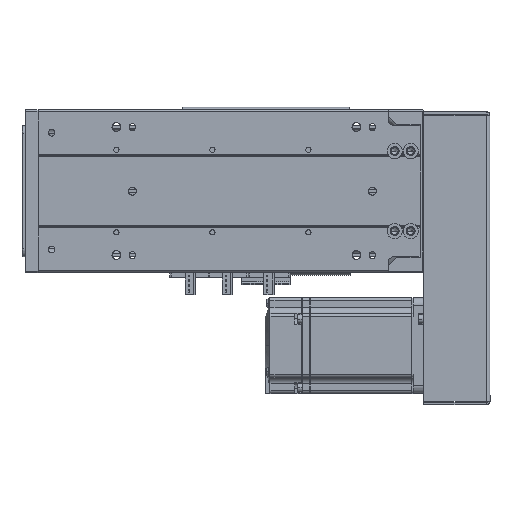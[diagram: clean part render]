
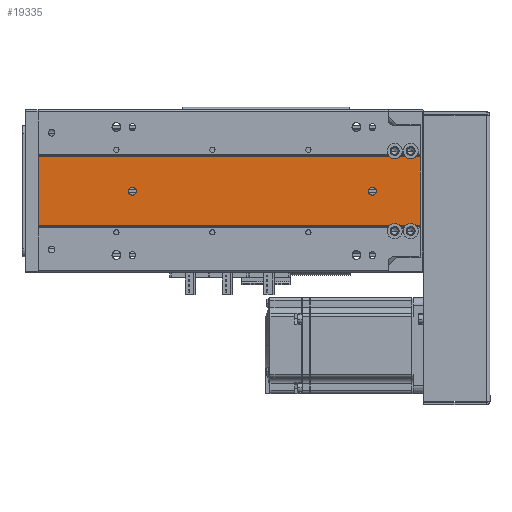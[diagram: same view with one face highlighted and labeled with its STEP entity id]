
A CAD part, front view. The second image highlights one B-rep face of the part: STEP entity #19335.
In plain terms, the highlighted planar face has unit normal (0, -1, 0).
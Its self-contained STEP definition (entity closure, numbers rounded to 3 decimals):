
#18 = LINE ( 'NONE', #62238, #758 ) ;
#576 = CARTESIAN_POINT ( 'NONE',  ( 140.403, 89.548, 209. ) ) ;
#758 = VECTOR ( 'NONE', #12681, 1000. ) ;
#1059 = DIRECTION ( 'NONE',  ( 1., 0., 0. ) ) ;
#1234 = DIRECTION ( 'NONE',  ( 0., 1., 0. ) ) ;
#1358 = AXIS2_PLACEMENT_3D ( 'NONE', #7738, #43076, #47953 ) ;
#1715 = ORIENTED_EDGE ( 'NONE', *, *, #11079, .T. ) ;
#1919 = CIRCLE ( 'NONE', #63177, 4.75 ) ;
#2388 = CARTESIAN_POINT ( 'NONE',  ( 161.989, 89.548, 239. ) ) ;
#3431 = CARTESIAN_POINT ( 'NONE',  ( 161.989, 89.548, 219.698 ) ) ;
#5236 = DIRECTION ( 'NONE',  ( -1., 0., 0. ) ) ;
#5568 = CARTESIAN_POINT ( 'NONE',  ( 118.817, 89.548, 239. ) ) ;
#6059 = CARTESIAN_POINT ( 'NONE',  ( 161.989, 89.548, 239. ) ) ;
#7738 = CARTESIAN_POINT ( 'NONE',  ( 140.403, 89.548, 59. ) ) ;
#8488 = DIRECTION ( 'NONE',  ( -1., 0., 0. ) ) ;
#8499 = CARTESIAN_POINT ( 'NONE',  ( 161.989, 89.548, 239. ) ) ;
#9602 = ORIENTED_EDGE ( 'NONE', *, *, #17396, .F. ) ;
#10458 = CIRCLE ( 'NONE', #50653, 4.75 ) ;
#10500 = DIRECTION ( 'NONE',  ( 0., 1., 0. ) ) ;
#10963 = EDGE_CURVE ( 'NONE', #18859, #34187, #21745, .T. ) ;
#11079 = EDGE_CURVE ( 'NONE', #16642, #43836, #57306, .T. ) ;
#11403 = AXIS2_PLACEMENT_3D ( 'NONE', #50633, #45904, #1059 ) ;
#12384 = DIRECTION ( 'NONE',  ( 0., 0., -1. ) ) ;
#12568 = CARTESIAN_POINT ( 'NONE',  ( 161.989, 89.548, 229.698 ) ) ;
#12681 = DIRECTION ( 'NONE',  ( 0., 0., -1. ) ) ;
#12708 = CIRCLE ( 'NONE', #51410, 4.75 ) ;
#12732 = EDGE_CURVE ( 'NONE', #14541, #33430, #36447, .T. ) ;
#13538 = EDGE_CURVE ( 'NONE', #46017, #54523, #29303, .T. ) ;
#14306 = ORIENTED_EDGE ( 'NONE', *, *, #13538, .F. ) ;
#14541 = VERTEX_POINT ( 'NONE', #26675 ) ;
#14637 = EDGE_LOOP ( 'NONE', ( #9602, #36595, #41213, #20303, #60223, #36361, #1715, #63675, #15286, #59479, #52698, #45113 ) ) ;
#15286 = ORIENTED_EDGE ( 'NONE', *, *, #22131, .T. ) ;
#15371 = VECTOR ( 'NONE', #23119, 1000. ) ;
#15691 = DIRECTION ( 'NONE',  ( -1., 0., 0. ) ) ;
#15832 = PLANE ( 'NONE',  #43459 ) ;
#16642 = VERTEX_POINT ( 'NONE', #52897 ) ;
#17396 = EDGE_CURVE ( 'NONE', #33884, #64855, #29463, .T. ) ;
#17525 = CARTESIAN_POINT ( 'NONE',  ( 140.403, 89.548, 59. ) ) ;
#17590 = DIRECTION ( 'NONE',  ( 0., 0., -1. ) ) ;
#18032 = CARTESIAN_POINT ( 'NONE',  ( 118.817, 89.548, 239. ) ) ;
#18215 = VERTEX_POINT ( 'NONE', #60678 ) ;
#18859 = VERTEX_POINT ( 'NONE', #23264 ) ;
#19138 = VECTOR ( 'NONE', #43825, 1000. ) ;
#19335 = ADVANCED_FACE ( 'NONE', ( #56826, #35491, #22096 ), #15832, .F. ) ;
#20303 = ORIENTED_EDGE ( 'NONE', *, *, #53625, .F. ) ;
#20607 = EDGE_LOOP ( 'NONE', ( #21441, #33138 ) ) ;
#21441 = ORIENTED_EDGE ( 'NONE', *, *, #22145, .F. ) ;
#21745 = LINE ( 'NONE', #58029, #61254 ) ;
#22096 = FACE_OUTER_BOUND ( 'NONE', #14637, .T. ) ;
#22131 = EDGE_CURVE ( 'NONE', #59592, #18215, #46135, .T. ) ;
#22145 = EDGE_CURVE ( 'NONE', #33430, #14541, #59668, .T. ) ;
#23119 = DIRECTION ( 'NONE',  ( 0., 0., -1. ) ) ;
#23264 = CARTESIAN_POINT ( 'NONE',  ( 161.989, 89.548, 239. ) ) ;
#23810 = CARTESIAN_POINT ( 'NONE',  ( 118.817, 89.548, 219.698 ) ) ;
#23887 = VECTOR ( 'NONE', #46225, 1000. ) ;
#23934 = CIRCLE ( 'NONE', #1358, 2.5 ) ;
#24291 = EDGE_CURVE ( 'NONE', #54523, #46017, #23934, .T. ) ;
#24413 = DIRECTION ( 'NONE',  ( 0., 1., 0. ) ) ;
#24630 = DIRECTION ( 'NONE',  ( 0., 1., 0. ) ) ;
#25360 = CARTESIAN_POINT ( 'NONE',  ( 118.817, 89.548, 239. ) ) ;
#25693 = CARTESIAN_POINT ( 'NONE',  ( 165.403, 89.548, 223. ) ) ;
#25848 = DIRECTION ( 'NONE',  ( -1., 0., 0. ) ) ;
#26039 = CARTESIAN_POINT ( 'NONE',  ( 161.989, 89.548, 0. ) ) ;
#26268 = CARTESIAN_POINT ( 'NONE',  ( 161.989, 89.548, 239. ) ) ;
#26675 = CARTESIAN_POINT ( 'NONE',  ( 137.903, 89.548, 209. ) ) ;
#26884 = VERTEX_POINT ( 'NONE', #5568 ) ;
#27800 = CARTESIAN_POINT ( 'NONE',  ( 161.989, 89.548, 0. ) ) ;
#29303 = CIRCLE ( 'NONE', #48263, 2.5 ) ;
#29463 = LINE ( 'NONE', #2388, #57892 ) ;
#30216 = AXIS2_PLACEMENT_3D ( 'NONE', #54676, #24630, #8488 ) ;
#30372 = VERTEX_POINT ( 'NONE', #3431 ) ;
#32399 = VECTOR ( 'NONE', #41207, 1000. ) ;
#32412 = CARTESIAN_POINT ( 'NONE',  ( 137.903, 89.548, 59. ) ) ;
#33138 = ORIENTED_EDGE ( 'NONE', *, *, #12732, .F. ) ;
#33366 = LINE ( 'NONE', #6059, #23887 ) ;
#33430 = VERTEX_POINT ( 'NONE', #45034 ) ;
#33884 = VERTEX_POINT ( 'NONE', #12568 ) ;
#34187 = VERTEX_POINT ( 'NONE', #63836 ) ;
#35491 = FACE_BOUND ( 'NONE', #44433, .T. ) ;
#35879 = VECTOR ( 'NONE', #60729, 1000. ) ;
#36179 = ORIENTED_EDGE ( 'NONE', *, *, #24291, .F. ) ;
#36361 = ORIENTED_EDGE ( 'NONE', *, *, #46766, .T. ) ;
#36447 = CIRCLE ( 'NONE', #11403, 2.5 ) ;
#36595 = ORIENTED_EDGE ( 'NONE', *, *, #58461, .T. ) ;
#36910 = VERTEX_POINT ( 'NONE', #59115 ) ;
#37832 = DIRECTION ( 'NONE',  ( 1., 0., 0. ) ) ;
#38703 = DIRECTION ( 'NONE',  ( 0., -1., 0. ) ) ;
#40446 = LINE ( 'NONE', #8499, #19138 ) ;
#41207 = DIRECTION ( 'NONE',  ( 1., 0., 0. ) ) ;
#41213 = ORIENTED_EDGE ( 'NONE', *, *, #10963, .F. ) ;
#43076 = DIRECTION ( 'NONE',  ( 0., -1., 0. ) ) ;
#43459 = AXIS2_PLACEMENT_3D ( 'NONE', #26268, #1234, #25848 ) ;
#43825 = DIRECTION ( 'NONE',  ( 1., 0., 0. ) ) ;
#43836 = VERTEX_POINT ( 'NONE', #55784 ) ;
#44433 = EDGE_LOOP ( 'NONE', ( #36179, #14306 ) ) ;
#44572 = VERTEX_POINT ( 'NONE', #27800 ) ;
#45034 = CARTESIAN_POINT ( 'NONE',  ( 142.903, 89.548, 209. ) ) ;
#45113 = ORIENTED_EDGE ( 'NONE', *, *, #48244, .T. ) ;
#45247 = CIRCLE ( 'NONE', #30216, 4.75 ) ;
#45904 = DIRECTION ( 'NONE',  ( 0., -1., 0. ) ) ;
#46017 = VERTEX_POINT ( 'NONE', #32412 ) ;
#46135 = LINE ( 'NONE', #25360, #35879 ) ;
#46225 = DIRECTION ( 'NONE',  ( 0., 0., -1. ) ) ;
#46761 = CARTESIAN_POINT ( 'NONE',  ( 142.903, 89.548, 59. ) ) ;
#46766 = EDGE_CURVE ( 'NONE', #36910, #16642, #45247, .T. ) ;
#47577 = EDGE_CURVE ( 'NONE', #30372, #44572, #33366, .T. ) ;
#47953 = DIRECTION ( 'NONE',  ( 1., 0., 0. ) ) ;
#48244 = EDGE_CURVE ( 'NONE', #30372, #64855, #12708, .T. ) ;
#48263 = AXIS2_PLACEMENT_3D ( 'NONE', #17525, #38703, #37832 ) ;
#48859 = EDGE_CURVE ( 'NONE', #18215, #44572, #52976, .T. ) ;
#50021 = CARTESIAN_POINT ( 'NONE',  ( 165.403, 89.548, 233. ) ) ;
#50541 = CARTESIAN_POINT ( 'NONE',  ( 115.403, 89.548, 223. ) ) ;
#50633 = CARTESIAN_POINT ( 'NONE',  ( 140.403, 89.548, 209. ) ) ;
#50653 = AXIS2_PLACEMENT_3D ( 'NONE', #50021, #24413, #59775 ) ;
#51410 = AXIS2_PLACEMENT_3D ( 'NONE', #25693, #61034, #15691 ) ;
#52698 = ORIENTED_EDGE ( 'NONE', *, *, #47577, .F. ) ;
#52897 = CARTESIAN_POINT ( 'NONE',  ( 118.817, 89.548, 229.698 ) ) ;
#52976 = LINE ( 'NONE', #26039, #32399 ) ;
#53625 = EDGE_CURVE ( 'NONE', #26884, #18859, #40446, .T. ) ;
#54523 = VERTEX_POINT ( 'NONE', #46761 ) ;
#54676 = CARTESIAN_POINT ( 'NONE',  ( 115.403, 89.548, 233. ) ) ;
#55784 = CARTESIAN_POINT ( 'NONE',  ( 118.817, 89.548, 226.302 ) ) ;
#56273 = DIRECTION ( 'NONE',  ( 1., 0., 0. ) ) ;
#56384 = AXIS2_PLACEMENT_3D ( 'NONE', #576, #57145, #56273 ) ;
#56826 = FACE_BOUND ( 'NONE', #20607, .T. ) ;
#57145 = DIRECTION ( 'NONE',  ( 0., -1., 0. ) ) ;
#57208 = CARTESIAN_POINT ( 'NONE',  ( 161.989, 89.548, 226.302 ) ) ;
#57306 = LINE ( 'NONE', #18032, #15371 ) ;
#57892 = VECTOR ( 'NONE', #12384, 1000. ) ;
#58029 = CARTESIAN_POINT ( 'NONE',  ( 161.989, 89.548, 239. ) ) ;
#58461 = EDGE_CURVE ( 'NONE', #33884, #34187, #10458, .T. ) ;
#59115 = CARTESIAN_POINT ( 'NONE',  ( 118.817, 89.548, 236.302 ) ) ;
#59479 = ORIENTED_EDGE ( 'NONE', *, *, #48859, .T. ) ;
#59592 = VERTEX_POINT ( 'NONE', #23810 ) ;
#59668 = CIRCLE ( 'NONE', #56384, 2.5 ) ;
#59775 = DIRECTION ( 'NONE',  ( -1., 0., 0. ) ) ;
#60018 = EDGE_CURVE ( 'NONE', #26884, #36910, #18, .T. ) ;
#60223 = ORIENTED_EDGE ( 'NONE', *, *, #60018, .T. ) ;
#60678 = CARTESIAN_POINT ( 'NONE',  ( 118.817, 89.548, 0. ) ) ;
#60729 = DIRECTION ( 'NONE',  ( 0., 0., -1. ) ) ;
#61034 = DIRECTION ( 'NONE',  ( 0., 1., 0. ) ) ;
#61254 = VECTOR ( 'NONE', #17590, 1000. ) ;
#62238 = CARTESIAN_POINT ( 'NONE',  ( 118.817, 89.548, 239. ) ) ;
#63177 = AXIS2_PLACEMENT_3D ( 'NONE', #50541, #10500, #5236 ) ;
#63317 = EDGE_CURVE ( 'NONE', #43836, #59592, #1919, .T. ) ;
#63675 = ORIENTED_EDGE ( 'NONE', *, *, #63317, .T. ) ;
#63836 = CARTESIAN_POINT ( 'NONE',  ( 161.989, 89.548, 236.302 ) ) ;
#64855 = VERTEX_POINT ( 'NONE', #57208 ) ;
